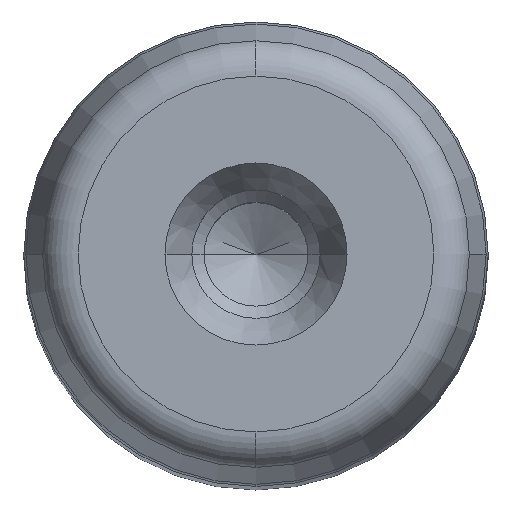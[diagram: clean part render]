
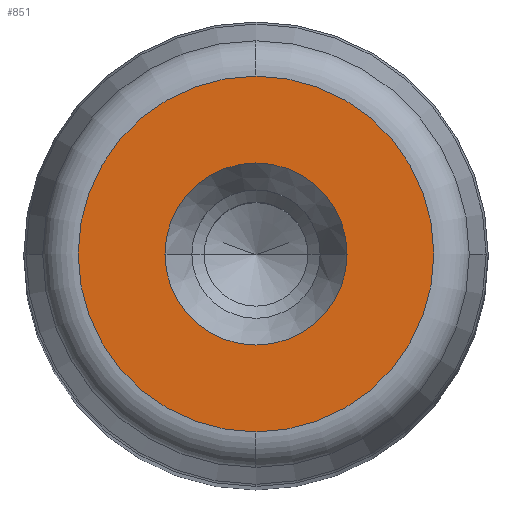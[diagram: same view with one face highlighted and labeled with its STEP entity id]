
A CAD part, top view. The second image highlights one B-rep face of the part: STEP entity #851.
In plain terms, the highlighted planar face has unit normal (0, 0, 1) as drawn and (0, 1, 0) by its records, which use the part's own axes.
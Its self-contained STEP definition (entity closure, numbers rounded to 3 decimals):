
#281=CARTESIAN_POINT('',(7.45,180.0,0.0));
#282=VERTEX_POINT('',#281);
#289=CARTESIAN_POINT('',(-7.45,180.0,0.));
#290=VERTEX_POINT('',#289);
#291=CARTESIAN_POINT('',(0.0,180.0,0.0));
#292=DIRECTION('',(0.0,1.0,0.0));
#293=DIRECTION('',(1.0,0.0,0.0));
#294=AXIS2_PLACEMENT_3D('',#291,#292,#293);
#295=CIRCLE('',#294,7.45);
#296=EDGE_CURVE('',#282,#290,#295,.T.);
#313=CARTESIAN_POINT('',(0.0,180.0,14.554));
#314=VERTEX_POINT('',#313);
#324=CARTESIAN_POINT('',(0.,180.0,-14.554));
#325=VERTEX_POINT('',#324);
#326=CARTESIAN_POINT('',(0.0,180.0,0.0));
#327=DIRECTION('',(0.0,1.0,0.0));
#328=DIRECTION('',(1.0,0.0,0.0));
#329=AXIS2_PLACEMENT_3D('',#326,#327,#328);
#330=CIRCLE('',#329,14.554);
#331=EDGE_CURVE('',#325,#314,#330,.T.);
#812=CARTESIAN_POINT('',(14.554,180.0,0.0));
#813=VERTEX_POINT('',#812);
#814=CARTESIAN_POINT('',(0.0,180.0,0.0));
#815=DIRECTION('',(0.0,1.0,0.0));
#816=DIRECTION('',(1.0,0.0,0.0));
#817=AXIS2_PLACEMENT_3D('',#814,#815,#816);
#818=CIRCLE('',#817,14.554);
#819=EDGE_CURVE('',#813,#325,#818,.T.);
#821=CARTESIAN_POINT('',(0.0,180.0,0.0));
#822=DIRECTION('',(0.0,1.0,0.0));
#823=DIRECTION('',(1.0,0.0,0.0));
#824=AXIS2_PLACEMENT_3D('',#821,#822,#823);
#825=CIRCLE('',#824,14.554);
#826=EDGE_CURVE('',#314,#813,#825,.T.);
#831=CARTESIAN_POINT('',(-16.01,180.0,-16.01));
#832=DIRECTION('',(0.0,1.0,0.0));
#833=DIRECTION('',(0.0,0.0,1.0));
#834=AXIS2_PLACEMENT_3D('',#831,#832,#833);
#835=PLANE('',#834);
#836=ORIENTED_EDGE('',*,*,#819,.T.);
#837=ORIENTED_EDGE('',*,*,#331,.T.);
#838=ORIENTED_EDGE('',*,*,#826,.T.);
#839=EDGE_LOOP('',(#836,#837,#838));
#840=FACE_OUTER_BOUND('',#839,.T.);
#841=ORIENTED_EDGE('',*,*,#296,.F.);
#842=CARTESIAN_POINT('',(0.0,180.0,0.0));
#843=DIRECTION('',(0.0,1.0,0.0));
#844=DIRECTION('',(1.0,0.0,0.0));
#845=AXIS2_PLACEMENT_3D('',#842,#843,#844);
#846=CIRCLE('',#845,7.45);
#847=EDGE_CURVE('',#290,#282,#846,.T.);
#848=ORIENTED_EDGE('',*,*,#847,.F.);
#849=EDGE_LOOP('',(#841,#848));
#850=FACE_BOUND('',#849,.T.);
#851=ADVANCED_FACE('',(#840,#850),#835,.T.);
